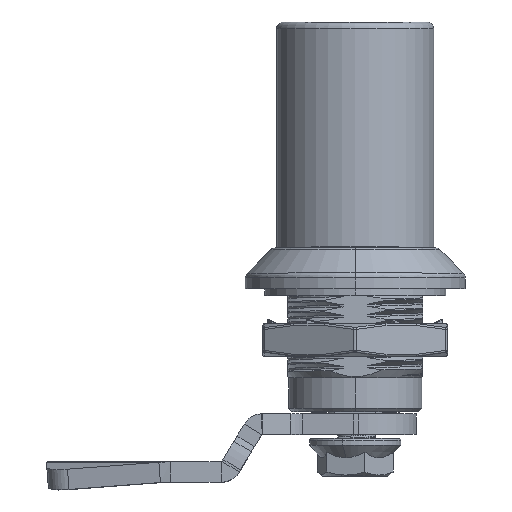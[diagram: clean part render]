
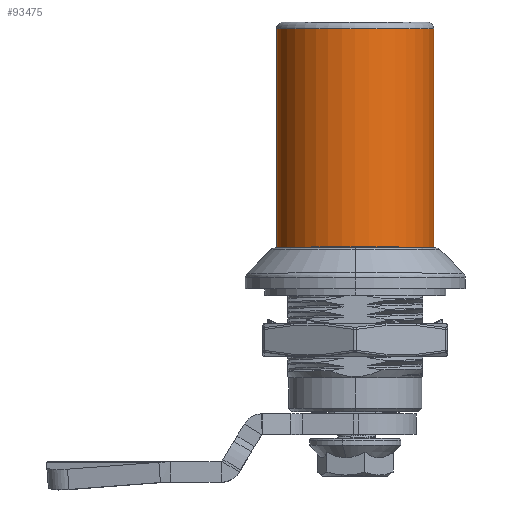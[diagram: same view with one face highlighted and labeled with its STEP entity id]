
A CAD part, top view. The second image highlights one B-rep face of the part: STEP entity #93475.
In plain terms, the highlighted cylindrical face has radius 11.5 mm (diameter 23 mm), a partial arc.
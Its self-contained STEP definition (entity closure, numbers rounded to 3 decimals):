
#965 = LINE ( 'NONE', #53366, #13252 ) ;
#5066 = CARTESIAN_POINT ( 'NONE',  ( 0., 3.045, 0. ) ) ;
#5577 = DIRECTION ( 'NONE',  ( 0., -1., 0. ) ) ;
#6012 = FACE_OUTER_BOUND ( 'NONE', #71073, .T. ) ;
#7569 = DIRECTION ( 'NONE',  ( 0., 0., -1. ) ) ;
#12695 = CYLINDRICAL_SURFACE ( 'NONE', #54420, 11.5 ) ;
#13154 = DIRECTION ( 'NONE',  ( 0., 0., -1. ) ) ;
#13252 = VECTOR ( 'NONE', #30976, 1000. ) ;
#20311 = DIRECTION ( 'NONE',  ( 0., -1., 0. ) ) ;
#21293 = CARTESIAN_POINT ( 'NONE',  ( 0., 3.045, -11.5 ) ) ;
#27013 = ORIENTED_EDGE ( 'NONE', *, *, #28402, .F. ) ;
#27026 = LINE ( 'NONE', #21293, #54171 ) ;
#28402 = EDGE_CURVE ( 'NONE', #83882, #29222, #965, .T. ) ;
#29222 = VERTEX_POINT ( 'NONE', #44231 ) ;
#30976 = DIRECTION ( 'NONE',  ( 0., -1., 0. ) ) ;
#33290 = CARTESIAN_POINT ( 'NONE',  ( 0., -32.9, 0. ) ) ;
#34491 = AXIS2_PLACEMENT_3D ( 'NONE', #33290, #60140, #77073 ) ;
#40937 = CARTESIAN_POINT ( 'NONE',  ( 0., -1., -11.5 ) ) ;
#44231 = CARTESIAN_POINT ( 'NONE',  ( 0., -32.9, 11.5 ) ) ;
#44554 = EDGE_CURVE ( 'NONE', #83882, #86199, #57799, .T. ) ;
#46016 = ORIENTED_EDGE ( 'NONE', *, *, #50799, .T. ) ;
#46427 = EDGE_CURVE ( 'NONE', #86199, #86373, #27026, .T. ) ;
#50799 = EDGE_CURVE ( 'NONE', #86373, #29222, #75565, .T. ) ;
#53366 = CARTESIAN_POINT ( 'NONE',  ( 0., 3.045, 11.5 ) ) ;
#53456 = ORIENTED_EDGE ( 'NONE', *, *, #46427, .T. ) ;
#54171 = VECTOR ( 'NONE', #5577, 1000. ) ;
#54420 = AXIS2_PLACEMENT_3D ( 'NONE', #5066, #20311, #13154 ) ;
#57799 = CIRCLE ( 'NONE', #82123, 11.5 ) ;
#60140 = DIRECTION ( 'NONE',  ( 0., 1., 0. ) ) ;
#69766 = CARTESIAN_POINT ( 'NONE',  ( 0., -1., 11.5 ) ) ;
#71073 = EDGE_LOOP ( 'NONE', ( #27013, #72188, #53456, #46016 ) ) ;
#71863 = DIRECTION ( 'NONE',  ( 0., -1., 0. ) ) ;
#72188 = ORIENTED_EDGE ( 'NONE', *, *, #44554, .T. ) ;
#75565 = CIRCLE ( 'NONE', #34491, 11.5 ) ;
#77073 = DIRECTION ( 'NONE',  ( 0., 0., -1. ) ) ;
#82123 = AXIS2_PLACEMENT_3D ( 'NONE', #93756, #71863, #7569 ) ;
#83882 = VERTEX_POINT ( 'NONE', #69766 ) ;
#86199 = VERTEX_POINT ( 'NONE', #40937 ) ;
#86373 = VERTEX_POINT ( 'NONE', #86599 ) ;
#86599 = CARTESIAN_POINT ( 'NONE',  ( 0., -32.9, -11.5 ) ) ;
#93475 = ADVANCED_FACE ( 'NONE', ( #6012 ), #12695, .T. ) ;
#93756 = CARTESIAN_POINT ( 'NONE',  ( 0., -1., 0. ) ) ;
